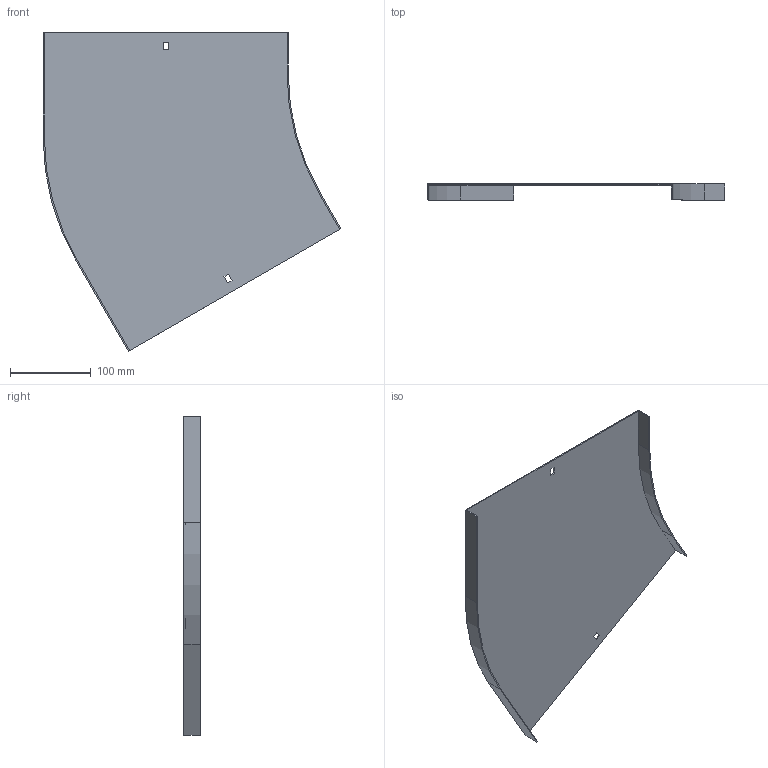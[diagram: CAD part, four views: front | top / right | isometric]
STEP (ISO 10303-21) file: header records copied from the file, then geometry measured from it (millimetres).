
FILE_DESCRIPTION (( 'STEP AP214' ), '1' );
FILE_NAME ('B2_12N3R300.step', '2025-02-21T10:49:24', ( '' ), ( '' ), 'SwSTEP 2.0', 'SolidWorks 2023', '' );
FILE_SCHEMA (( 'AUTOMOTIVE_DESIGN' ));
Length unit declared in the file: millimetre
Products named in the file (1): B2_12N3R300
Bounding box: 367.99 x 20 x 394.05 mm (x, y, z)
Volume: 173591.8 mm3; surface area: 233581.1 mm2
Topology: 1 solids, 1 shells, 26 faces, 72 edges, 48 vertices
Faces by surface type: plane 22, cylinder 4
Entity records: 855 total; most frequent: CARTESIAN_POINT 147, ORIENTED_EDGE 144, DIRECTION 134, EDGE_CURVE 72, LINE 64, VECTOR 64, VERTEX_POINT 48, AXIS2_PLACEMENT_3D 35
